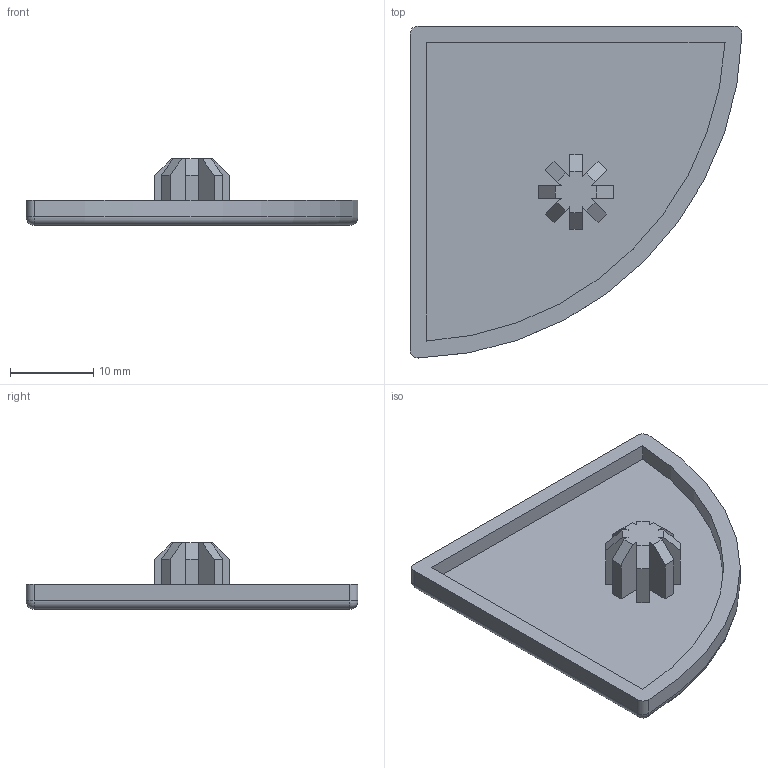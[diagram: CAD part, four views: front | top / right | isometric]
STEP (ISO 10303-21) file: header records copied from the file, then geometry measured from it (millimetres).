
FILE_DESCRIPTION(/* description */ (''),/* implementation_level */ '2;1');
FILE_NAME(/* name */ 'C:\Users\Owner\Documents\硯聰\Inv材料庫-3D新型錄\AMC-端蓋\8系列\AMC-40R.stp',/* time_stamp */ '2019-03-08T15:40:27+08:00',/* author */ ('Owner'),/* organization */ (''),/* preprocessor_version */ 'ST-DEVELOPER v16.1',/* originating_system */ 'Autodesk Inventor 2016',/* authorisation */ '');
FILE_SCHEMA (('AUTOMOTIVE_DESIGN { 1 0 10303 214 3 1 1 }'));
Length unit declared in the file: millimetre
Products named in the file (1): AMC-40RA
Bounding box: 39.99 x 39.99 x 8 mm (x, y, z)
Volume: 2043.4 mm3; surface area: 3469.6 mm2
Topology: 1 solids, 1 shells, 51 faces, 135 edges, 85 vertices
Faces by surface type: plane 40, cylinder 7, sphere 3, torus 1
Entity records: 1555 total; most frequent: CARTESIAN_POINT 269, ORIENTED_EDGE 264, DIRECTION 253, EDGE_CURVE 132, LINE 115, VECTOR 115, VERTEX_POINT 85, AXIS2_PLACEMENT_3D 69
